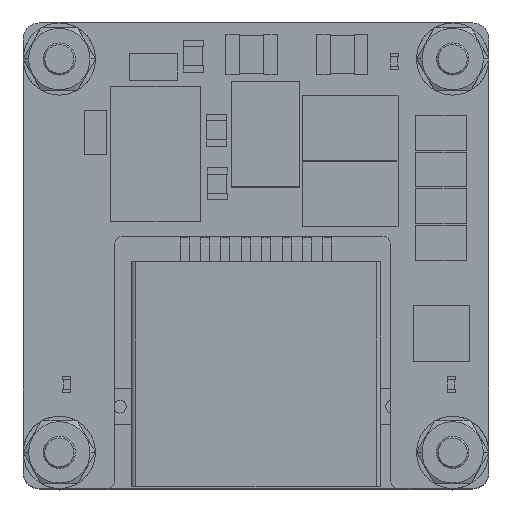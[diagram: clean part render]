
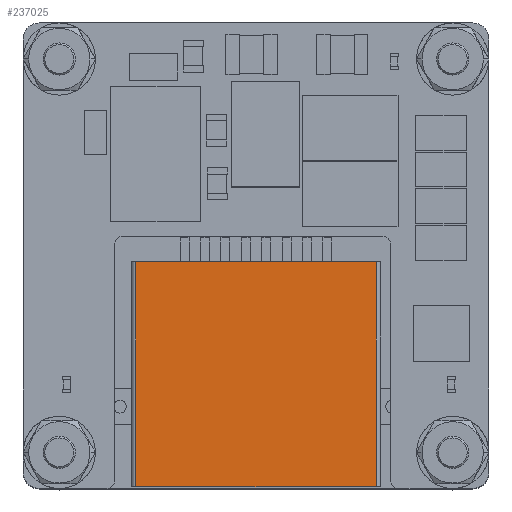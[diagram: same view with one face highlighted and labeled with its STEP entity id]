
A CAD part, top view. The second image highlights one B-rep face of the part: STEP entity #237025.
In plain terms, the highlighted planar face has unit normal (0, 0, 1).
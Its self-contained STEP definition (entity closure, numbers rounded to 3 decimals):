
#80708=DIRECTION('',(1.,0.,0.));
#80709=VECTOR('',#80708,14.95);
#80710=CARTESIAN_POINT('',(-7.475,-14.38,22.9));
#80711=LINE('',#80710,#80709);
#80727=DIRECTION('',(0.,-1.,0.));
#80728=VECTOR('',#80727,14.);
#80729=CARTESIAN_POINT('',(-7.475,-0.38,22.9));
#80730=LINE('',#80729,#80728);
#81049=DIRECTION('',(-1.,0.,0.));
#81050=VECTOR('',#81049,14.95);
#81051=CARTESIAN_POINT('',(7.475,-0.38,22.9));
#81052=LINE('',#81051,#81050);
#81411=DIRECTION('',(0.,1.,0.));
#81412=VECTOR('',#81411,14.);
#81413=CARTESIAN_POINT('',(7.475,-14.38,22.9));
#81414=LINE('',#81413,#81412);
#111309=CARTESIAN_POINT('',(-7.475,-0.38,22.9));
#111310=CARTESIAN_POINT('',(-7.475,-14.38,22.9));
#111311=VERTEX_POINT('',#111309);
#111312=VERTEX_POINT('',#111310);
#111313=CARTESIAN_POINT('',(7.475,-14.38,22.9));
#111314=VERTEX_POINT('',#111313);
#111327=CARTESIAN_POINT('',(7.475,-0.38,22.9));
#111328=VERTEX_POINT('',#111327);
#237014=CARTESIAN_POINT('',(0.,-7.38,22.9));
#237015=DIRECTION('',(0.,0.,1.));
#237016=DIRECTION('',(-1.,0.,0.));
#237017=AXIS2_PLACEMENT_3D('',#237014,#237015,#237016);
#237018=PLANE('',#237017);
#237019=ORIENTED_EDGE('',*,*,#236025,.F.);
#237020=ORIENTED_EDGE('',*,*,#236496,.F.);
#237021=ORIENTED_EDGE('',*,*,#237009,.F.);
#237022=ORIENTED_EDGE('',*,*,#235960,.F.);
#237023=EDGE_LOOP('',(#237019,#237020,#237021,#237022));
#237024=FACE_OUTER_BOUND('',#237023,.F.);
#237025=ADVANCED_FACE('',(#237024),#237018,.T.);
#235960=EDGE_CURVE('',#111312,#111314,#80711,.T.);
#236025=EDGE_CURVE('',#111311,#111312,#80730,.T.);
#236496=EDGE_CURVE('',#111328,#111311,#81052,.T.);
#237009=EDGE_CURVE('',#111314,#111328,#81414,.T.);
